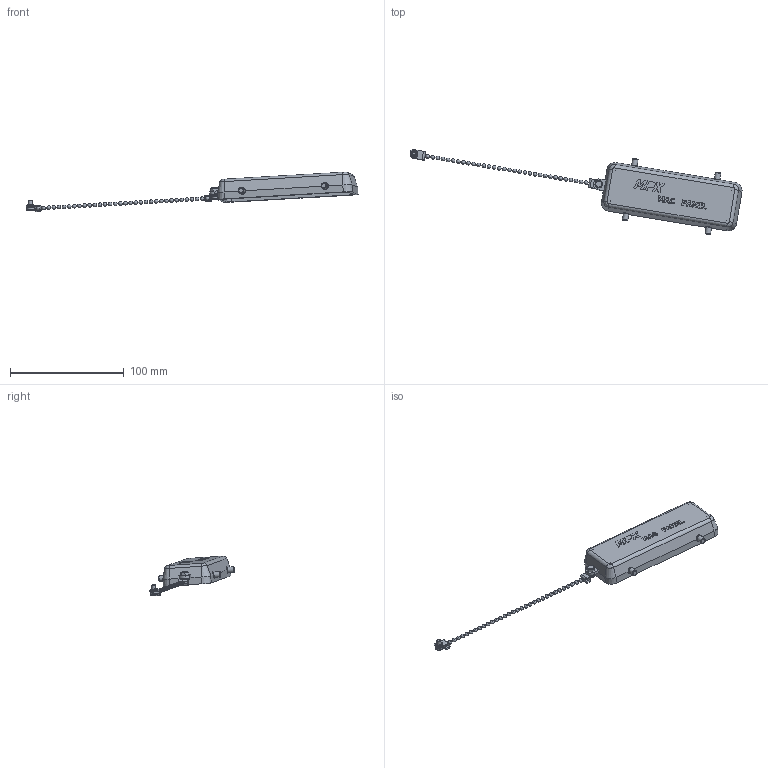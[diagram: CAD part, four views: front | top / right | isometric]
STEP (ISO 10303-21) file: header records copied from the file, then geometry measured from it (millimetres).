
FILE_DESCRIPTION((''),'2;1');
FILE_NAME('C:\old_Drawings\shrinkwrapped website .stp files\303001-01-STP.stp','2011-06-06T15:04:24',('GaryRobinson'),(''),'Autodesk Inventor 2011','Autodesk Inventor 2011','');
FILE_SCHEMA(('CONFIG_CONTROL_DESIGN'));
Length unit declared in the file: inch
Products named in the file (1): 303001-01-STP
Bounding box: 292.24 x 75.03 x 34.96 mm (x, y, z)
Surface area: 22079.5 mm2 (no closed solid volume)
Topology: 0 solids, 44 shells, 578 faces, 1600 edges, 1051 vertices
Faces by surface type: plane 290, cylinder 167, bspline 50, cone 34, sphere 34, torus 3
Full cylindrical faces by diameter (mm): 0.127 x4, 0.508 x34, 2.845 x1, 3.505 x1, 4.877 x4, 5.573 x1, 6.35 x1, 6.858 x1
Entity records: 18397 total; most frequent: CARTESIAN_POINT 4364, DIRECTION 2763, ORIENTED_EDGE 2670, EDGE_CURVE 1335, AXIS2_PLACEMENT_3D 939, VERTEX_POINT 910, VECTOR 885, LINE 885
